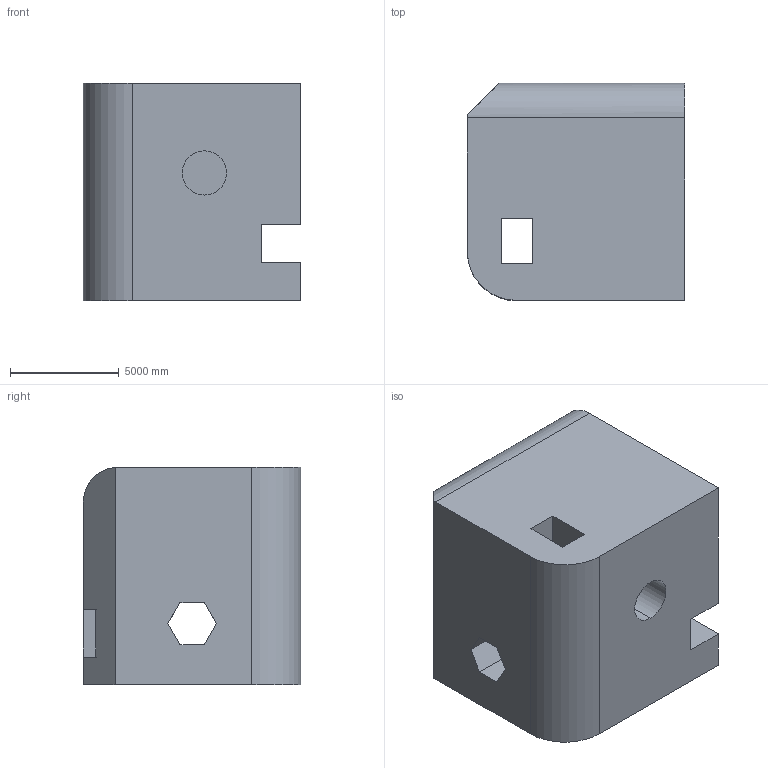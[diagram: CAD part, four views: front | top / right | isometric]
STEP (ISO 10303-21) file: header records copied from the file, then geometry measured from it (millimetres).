
FILE_DESCRIPTION (( 'STEP AP203' ), '1' );
FILE_NAME ('1810.STEP', '2022-08-25T15:59:59', ( 'user' ), ( '' ), 'SwSTEP 2.0', 'SolidWorks 2021', '' );
FILE_SCHEMA (( 'CONFIG_CONTROL_DESIGN' ));
Length unit declared in the file: centimetre
Products named in the file (1): 1810
Bounding box: 10000 x 10000 x 10000 mm (x, y, z)
Volume: 861219652566.6 mm3; surface area: 757653530.2 mm2
Topology: 1 solids, 1 shells, 36 faces, 102 edges, 68 vertices
Faces by surface type: plane 31, cylinder 5
Entity records: 1241 total; most frequent: CARTESIAN_POINT 210, ORIENTED_EDGE 204, DIRECTION 185, EDGE_CURVE 102, LINE 91, VECTOR 91, VERTEX_POINT 68, AXIS2_PLACEMENT_3D 47
